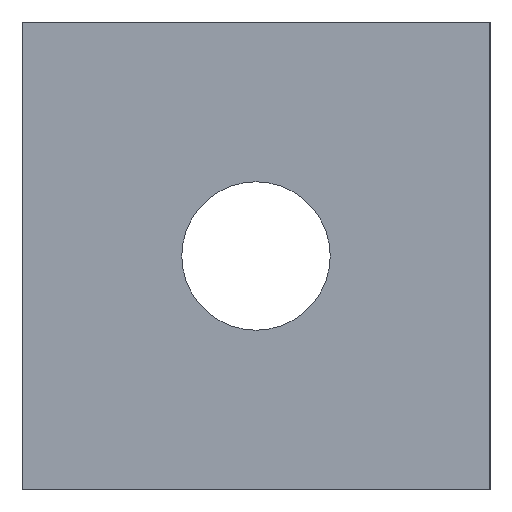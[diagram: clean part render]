
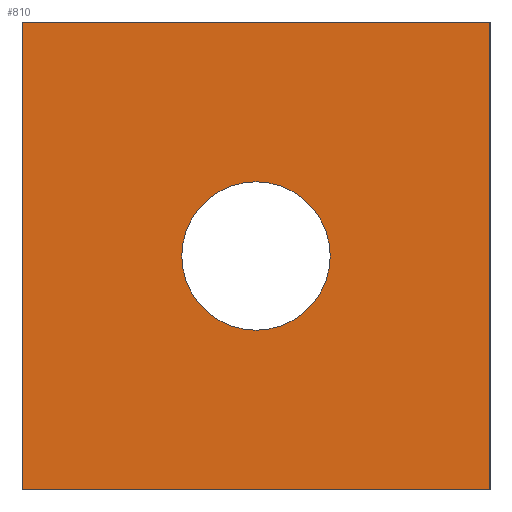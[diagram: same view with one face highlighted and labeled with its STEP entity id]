
A CAD part, left-side view. The second image highlights one B-rep face of the part: STEP entity #810.
In plain terms, the highlighted planar face has unit normal (-1, 0, 0).
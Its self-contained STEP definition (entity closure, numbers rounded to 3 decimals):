
#36 = DIRECTION ( 'NONE',  ( 0., 0., -1. ) ) ;
#55 = EDGE_CURVE ( 'NONE', #455, #895, #600, .T. ) ;
#90 = CARTESIAN_POINT ( 'NONE',  ( -70., 0., 7.135 ) ) ;
#100 = AXIS2_PLACEMENT_3D ( 'NONE', #567, #575, #589 ) ;
#142 = FACE_OUTER_BOUND ( 'NONE', #1233, .T. ) ;
#147 = CARTESIAN_POINT ( 'NONE',  ( -70., -22.5, -22.5 ) ) ;
#160 = VECTOR ( 'NONE', #294, 1000. ) ;
#183 = EDGE_CURVE ( 'NONE', #607, #455, #694, .T. ) ;
#267 = VECTOR ( 'NONE', #846, 1000. ) ;
#294 = DIRECTION ( 'NONE',  ( 0., 0., -1. ) ) ;
#384 = DIRECTION ( 'NONE',  ( 0., 0., -1. ) ) ;
#444 = EDGE_CURVE ( 'NONE', #539, #635, #571, .T. ) ;
#455 = VERTEX_POINT ( 'NONE', #147 ) ;
#473 = ORIENTED_EDGE ( 'NONE', *, *, #1228, .T. ) ;
#509 = CARTESIAN_POINT ( 'NONE',  ( -70., -22.5, -22.5 ) ) ;
#537 = CARTESIAN_POINT ( 'NONE',  ( -70., 22.5, 22.5 ) ) ;
#539 = VERTEX_POINT ( 'NONE', #1251 ) ;
#540 = PLANE ( 'NONE',  #100 ) ;
#567 = CARTESIAN_POINT ( 'NONE',  ( -70., 22.5, -22.5 ) ) ;
#571 = CIRCLE ( 'NONE', #832, 7.135 ) ;
#575 = DIRECTION ( 'NONE',  ( -1., 0., 0. ) ) ;
#589 = DIRECTION ( 'NONE',  ( 0., 0., 1. ) ) ;
#596 = LINE ( 'NONE', #537, #907 ) ;
#600 = LINE ( 'NONE', #509, #791 ) ;
#607 = VERTEX_POINT ( 'NONE', #722 ) ;
#608 = DIRECTION ( 'NONE',  ( 1., 0., 0. ) ) ;
#635 = VERTEX_POINT ( 'NONE', #90 ) ;
#644 = ORIENTED_EDGE ( 'NONE', *, *, #1189, .F. ) ;
#682 = DIRECTION ( 'NONE',  ( 1., 0., 0. ) ) ;
#694 = LINE ( 'NONE', #1058, #160 ) ;
#722 = CARTESIAN_POINT ( 'NONE',  ( -70., -22.5, 22.5 ) ) ;
#734 = VERTEX_POINT ( 'NONE', #952 ) ;
#747 = DIRECTION ( 'NONE',  ( 0., 0., 1. ) ) ;
#791 = VECTOR ( 'NONE', #1048, 1000. ) ;
#794 = CARTESIAN_POINT ( 'NONE',  ( -70., 22.5, -22.5 ) ) ;
#810 = ADVANCED_FACE ( 'NONE', ( #1269, #142 ), #540, .T. ) ;
#832 = AXIS2_PLACEMENT_3D ( 'NONE', #1345, #682, #36 ) ;
#846 = DIRECTION ( 'NONE',  ( 0., -1., 0. ) ) ;
#882 = ORIENTED_EDGE ( 'NONE', *, *, #183, .F. ) ;
#885 = ORIENTED_EDGE ( 'NONE', *, *, #1159, .F. ) ;
#895 = VERTEX_POINT ( 'NONE', #794 ) ;
#907 = VECTOR ( 'NONE', #747, 1000. ) ;
#952 = CARTESIAN_POINT ( 'NONE',  ( -70., 22.5, 22.5 ) ) ;
#983 = ORIENTED_EDGE ( 'NONE', *, *, #444, .T. ) ;
#1048 = DIRECTION ( 'NONE',  ( 0., 1., 0. ) ) ;
#1058 = CARTESIAN_POINT ( 'NONE',  ( -70., -22.5, 22.5 ) ) ;
#1113 = AXIS2_PLACEMENT_3D ( 'NONE', #1147, #608, #384 ) ;
#1136 = LINE ( 'NONE', #1409, #267 ) ;
#1147 = CARTESIAN_POINT ( 'NONE',  ( -70., 0., 0. ) ) ;
#1159 = EDGE_CURVE ( 'NONE', #895, #734, #596, .T. ) ;
#1189 = EDGE_CURVE ( 'NONE', #734, #607, #1136, .T. ) ;
#1228 = EDGE_CURVE ( 'NONE', #635, #539, #1401, .T. ) ;
#1233 = EDGE_LOOP ( 'NONE', ( #1266, #882, #644, #885 ) ) ;
#1251 = CARTESIAN_POINT ( 'NONE',  ( -70., 0., -7.135 ) ) ;
#1266 = ORIENTED_EDGE ( 'NONE', *, *, #55, .F. ) ;
#1269 = FACE_BOUND ( 'NONE', #1334, .T. ) ;
#1334 = EDGE_LOOP ( 'NONE', ( #983, #473 ) ) ;
#1345 = CARTESIAN_POINT ( 'NONE',  ( -70., 0., 0. ) ) ;
#1401 = CIRCLE ( 'NONE', #1113, 7.135 ) ;
#1409 = CARTESIAN_POINT ( 'NONE',  ( -70., -22.5, 22.5 ) ) ;
